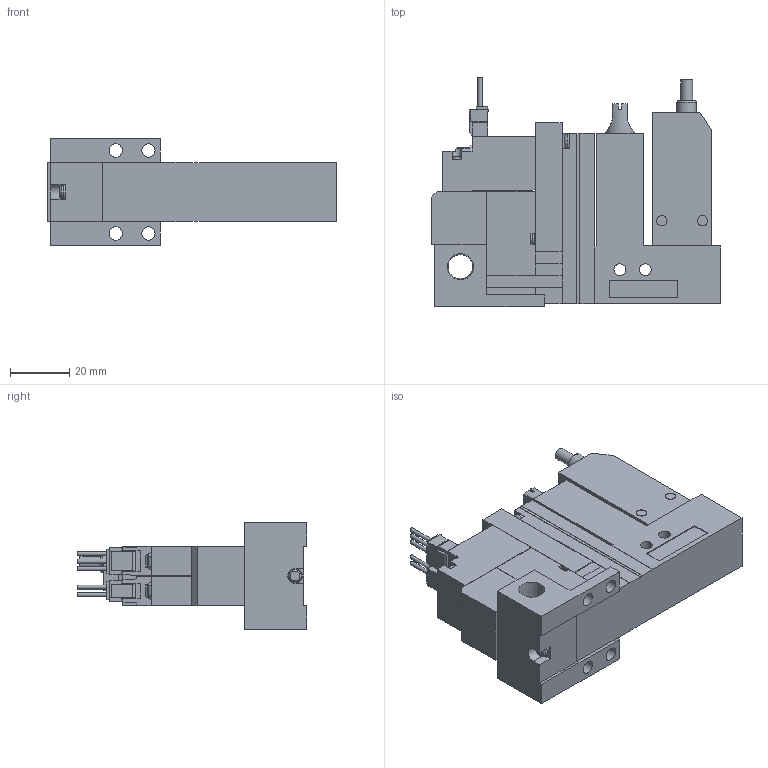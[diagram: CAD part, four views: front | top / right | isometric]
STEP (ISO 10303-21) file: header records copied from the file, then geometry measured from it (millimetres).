
FILE_DESCRIPTION(('STEP AP203'),'1');
FILE_NAME('ABS_ABPLC5WLR101.stp','2025-02-18T05:29:24',(' '),(' '),'Spatial InterOp 3D',' ',' ');
FILE_SCHEMA(('CONFIG_CONTROL_DESIGN'));
Length unit declared in the file: millimetre
Products named in the file (5): BMC22M※※※※ABS_ABPLC5WLR101; Solenoid valve W; Pressure sensor ABSLC; Unit LC; Base MR10R
Assembly tree (4 placements, depth 2):
  BMC22M※※※※ABS_ABPLC5WLR101
    Solenoid valve W
    Pressure sensor ABSLC
    Unit LC
    Base MR10R
Bounding box: 97.6 x 77.45 x 36 mm (x, y, z)
Volume: 107380.2 mm3; surface area: 29633.3 mm2
Topology: 4 solids, 4 shells, 413 faces, 1109 edges, 730 vertices
Faces by surface type: plane 348, cylinder 50, cone 9, torus 6
Full cylindrical faces by diameter (mm): 1.4 x5, 2.5 x1, 3 x4, 3.5 x6, 3.6 x1, 4 x3, 4.134 x1, 4.5 x4, 5.2 x1, 6 x1, 6.5 x1, 6.6 x1, 8.279 x1
Entity records: 12807 total; most frequent: CARTESIAN_POINT 2368, ORIENTED_EDGE 2086, DIRECTION 2016, EDGE_CURVE 1043, LINE 892, VECTOR 892, VERTEX_POINT 713, AXIS2_PLACEMENT_3D 562
